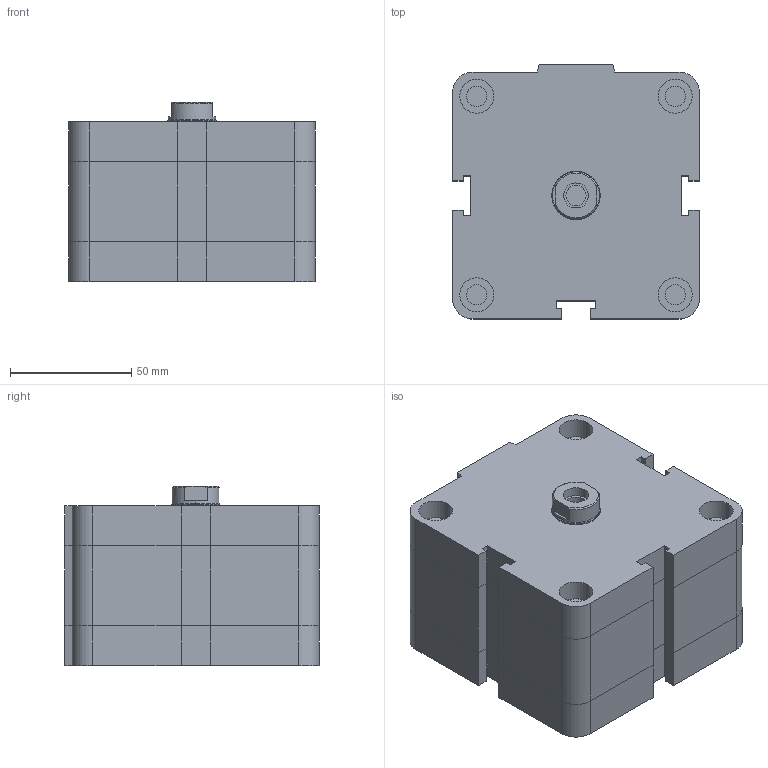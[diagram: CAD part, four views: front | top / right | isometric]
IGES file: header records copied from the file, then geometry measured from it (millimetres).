
Global section: file name: No Iges File Name specified; native system: Autodesk Inventor 2009; preprocessor: AutoDesk Inventor Iges Exporter R2009; author: rivolro1; date: 20081219.155136; units: millimetre
Bounding box: 102 x 105 x 74 mm (x, y, z)
Volume: 651737.4 mm3; surface area: 63040.9 mm2
Topology: 2 solids, 2 shells, 187 faces, 410 edges, 248 vertices
Faces by surface type: plane 112, bspline 39, revolution 16, cylinder 16, cone 4
